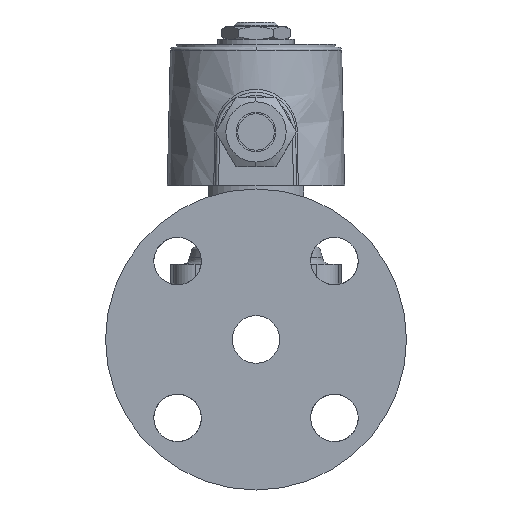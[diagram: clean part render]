
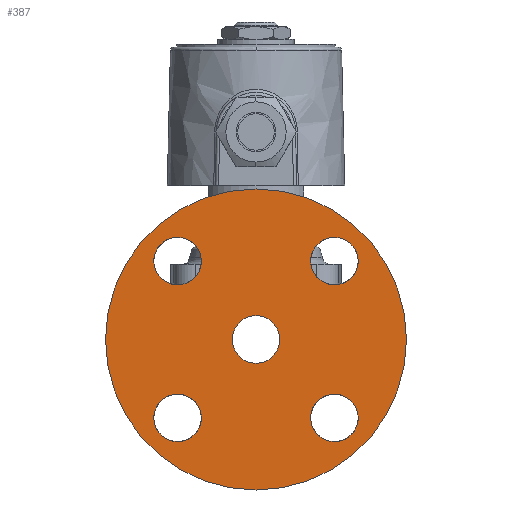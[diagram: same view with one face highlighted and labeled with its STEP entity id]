
A CAD part, left-side view. The second image highlights one B-rep face of the part: STEP entity #387.
In plain terms, the highlighted planar face has unit normal (-1, 0, 0).
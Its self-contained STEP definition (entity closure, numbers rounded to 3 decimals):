
#387=ADVANCED_FACE('',(#2562,#2563,#2564,#2565,#2566,#2567),#2561,.T.);
#2561=PLANE('',#6380);
#2562=FACE_OUTER_BOUND('',#6381,.T.);
#2563=FACE_BOUND('',#6382,.T.);
#2564=FACE_BOUND('',#6383,.T.);
#2565=FACE_BOUND('',#6384,.T.);
#2566=FACE_BOUND('',#6385,.T.);
#2567=FACE_BOUND('',#6386,.T.);
#6377=CARTESIAN_POINT('',(-60.,-92.272,-105.));
#6378=DIRECTION('',(-1.,0.,0.));
#6379=DIRECTION('',(0.,0.,1.));
#6380=AXIS2_PLACEMENT_3D('',#6377,#6378,#6379);
#6381=EDGE_LOOP('',(#8358,#8359));
#6382=EDGE_LOOP('',(#8360,#8361));
#6383=EDGE_LOOP('',(#8362,#8363));
#6384=EDGE_LOOP('',(#8364,#8365));
#6385=EDGE_LOOP('',(#8366,#8367));
#6386=EDGE_LOOP('',(#8368,#8369));
#8358=ORIENTED_EDGE('',*,*,#9664,.T.);
#8359=ORIENTED_EDGE('',*,*,#9665,.T.);
#8360=ORIENTED_EDGE('',*,*,#9666,.F.);
#8361=ORIENTED_EDGE('',*,*,#9667,.F.);
#8362=ORIENTED_EDGE('',*,*,#9668,.F.);
#8363=ORIENTED_EDGE('',*,*,#9669,.F.);
#8364=ORIENTED_EDGE('',*,*,#9670,.F.);
#8365=ORIENTED_EDGE('',*,*,#9671,.F.);
#8366=ORIENTED_EDGE('',*,*,#9672,.F.);
#8367=ORIENTED_EDGE('',*,*,#9673,.F.);
#8368=ORIENTED_EDGE('',*,*,#9674,.F.);
#8369=ORIENTED_EDGE('',*,*,#9675,.F.);
#9664=EDGE_CURVE('',#13615,#13616,#13617,.T.);
#9665=EDGE_CURVE('',#13616,#13615,#13623,.T.);
#9666=EDGE_CURVE('',#13629,#13630,#13631,.T.);
#9667=EDGE_CURVE('',#13630,#13629,#13637,.T.);
#9668=EDGE_CURVE('',#13643,#13644,#13645,.T.);
#9669=EDGE_CURVE('',#13644,#13643,#13651,.T.);
#9670=EDGE_CURVE('',#13657,#13658,#13659,.T.);
#9671=EDGE_CURVE('',#13658,#13657,#13665,.T.);
#9672=EDGE_CURVE('',#13671,#13672,#13673,.T.);
#9673=EDGE_CURVE('',#13672,#13671,#13679,.T.);
#9674=EDGE_CURVE('',#13685,#13686,#13687,.T.);
#9675=EDGE_CURVE('',#13686,#13685,#13693,.T.);
#13615=VERTEX_POINT('',#18491);
#13616=VERTEX_POINT('',#18492);
#13617=CIRCLE('',#18496,47.5);
#13623=CIRCLE('',#18500,47.5);
#13629=VERTEX_POINT('',#18501);
#13630=VERTEX_POINT('',#18502);
#13631=(BOUNDED_CURVE() B_SPLINE_CURVE(2,(#18503,#18504,#18505,#18506,#18507),.UNSPECIFIED.,.F.,.F.) B_SPLINE_CURVE_WITH_KNOTS((3,2,3),(0.,0.5,1.),.UNSPECIFIED.) CURVE() GEOMETRIC_REPRESENTATION_ITEM() RATIONAL_B_SPLINE_CURVE((1.,0.707,1.,0.707,1.)) REPRESENTATION_ITEM('') );
#13637=(BOUNDED_CURVE() B_SPLINE_CURVE(2,(#18508,#18509,#18510,#18511,#18512),.UNSPECIFIED.,.F.,.F.) B_SPLINE_CURVE_WITH_KNOTS((3,2,3),(0.,0.5,1.),.UNSPECIFIED.) CURVE() GEOMETRIC_REPRESENTATION_ITEM() RATIONAL_B_SPLINE_CURVE((1.,0.707,1.,0.707,1.)) REPRESENTATION_ITEM('') );
#13643=VERTEX_POINT('',#18513);
#13644=VERTEX_POINT('',#18514);
#13645=(BOUNDED_CURVE() B_SPLINE_CURVE(2,(#18515,#18516,#18517,#18518,#18519),.UNSPECIFIED.,.F.,.F.) B_SPLINE_CURVE_WITH_KNOTS((3,2,3),(0.,0.5,1.),.UNSPECIFIED.) CURVE() GEOMETRIC_REPRESENTATION_ITEM() RATIONAL_B_SPLINE_CURVE((1.,0.707,1.,0.707,1.)) REPRESENTATION_ITEM('') );
#13651=(BOUNDED_CURVE() B_SPLINE_CURVE(2,(#18520,#18521,#18522,#18523,#18524),.UNSPECIFIED.,.F.,.F.) B_SPLINE_CURVE_WITH_KNOTS((3,2,3),(0.,0.5,1.),.UNSPECIFIED.) CURVE() GEOMETRIC_REPRESENTATION_ITEM() RATIONAL_B_SPLINE_CURVE((1.,0.707,1.,0.707,1.)) REPRESENTATION_ITEM('') );
#13657=VERTEX_POINT('',#18525);
#13658=VERTEX_POINT('',#18526);
#13659=(BOUNDED_CURVE() B_SPLINE_CURVE(2,(#18527,#18528,#18529,#18530,#18531),.UNSPECIFIED.,.F.,.F.) B_SPLINE_CURVE_WITH_KNOTS((3,2,3),(0.,0.5,1.),.UNSPECIFIED.) CURVE() GEOMETRIC_REPRESENTATION_ITEM() RATIONAL_B_SPLINE_CURVE((1.,0.707,1.,0.707,1.)) REPRESENTATION_ITEM('') );
#13665=(BOUNDED_CURVE() B_SPLINE_CURVE(2,(#18532,#18533,#18534,#18535,#18536),.UNSPECIFIED.,.F.,.F.) B_SPLINE_CURVE_WITH_KNOTS((3,2,3),(0.,0.5,1.),.UNSPECIFIED.) CURVE() GEOMETRIC_REPRESENTATION_ITEM() RATIONAL_B_SPLINE_CURVE((1.,0.707,1.,0.707,1.)) REPRESENTATION_ITEM('') );
#13671=VERTEX_POINT('',#18537);
#13672=VERTEX_POINT('',#18538);
#13673=CIRCLE('',#18542,7.5);
#13679=CIRCLE('',#18546,7.5);
#13685=VERTEX_POINT('',#18547);
#13686=VERTEX_POINT('',#18548);
#13687=(BOUNDED_CURVE() B_SPLINE_CURVE(2,(#18549,#18550,#18551,#18552,#18553),.UNSPECIFIED.,.F.,.F.) B_SPLINE_CURVE_WITH_KNOTS((3,2,3),(0.,0.5,1.),.UNSPECIFIED.) CURVE() GEOMETRIC_REPRESENTATION_ITEM() RATIONAL_B_SPLINE_CURVE((1.,0.707,1.,0.707,1.)) REPRESENTATION_ITEM('') );
#13693=(BOUNDED_CURVE() B_SPLINE_CURVE(2,(#18554,#18555,#18556,#18557,#18558),.UNSPECIFIED.,.F.,.F.) B_SPLINE_CURVE_WITH_KNOTS((3,2,3),(0.,0.5,1.),.UNSPECIFIED.) CURVE() GEOMETRIC_REPRESENTATION_ITEM() RATIONAL_B_SPLINE_CURVE((1.,0.707,1.,0.707,1.)) REPRESENTATION_ITEM('') );
#18491=CARTESIAN_POINT('',(-60.,0.,47.5));
#18492=CARTESIAN_POINT('',(-60.,0.,-47.5));
#18493=CARTESIAN_POINT('',(-60.,0.,0.));
#18494=DIRECTION('',(-1.,0.,0.));
#18495=DIRECTION('',(0.,0.,1.));
#18496=AXIS2_PLACEMENT_3D('',#18493,#18494,#18495);
#18497=CARTESIAN_POINT('',(-60.,0.,0.));
#18498=DIRECTION('',(-1.,0.,0.));
#18499=DIRECTION('',(0.,0.,1.));
#18500=AXIS2_PLACEMENT_3D('',#18497,#18498,#18499);
#18501=CARTESIAN_POINT('',(-60.,-24.742,32.249));
#18502=CARTESIAN_POINT('',(-60.,-24.755,17.249));
#18503=CARTESIAN_POINT('',(-60.,-24.742,32.249));
#18504=CARTESIAN_POINT('',(-60.,-17.245,32.242));
#18505=CARTESIAN_POINT('',(-60.,-17.249,24.745));
#18506=CARTESIAN_POINT('',(-60.,-17.252,17.249));
#18507=CARTESIAN_POINT('',(-60.,-24.755,17.249));
#18508=CARTESIAN_POINT('',(-60.,-24.755,17.249));
#18509=CARTESIAN_POINT('',(-60.,-32.252,17.249));
#18510=CARTESIAN_POINT('',(-60.,-32.249,24.752));
#18511=CARTESIAN_POINT('',(-60.,-32.245,32.255));
#18512=CARTESIAN_POINT('',(-60.,-24.742,32.249));
#18513=CARTESIAN_POINT('',(-60.,-24.742,-17.249));
#18514=CARTESIAN_POINT('',(-60.,-24.756,-32.249));
#18515=CARTESIAN_POINT('',(-60.,-24.742,-17.249));
#18516=CARTESIAN_POINT('',(-60.,-17.245,-17.256));
#18517=CARTESIAN_POINT('',(-60.,-17.249,-24.752));
#18518=CARTESIAN_POINT('',(-60.,-17.252,-32.249));
#18519=CARTESIAN_POINT('',(-60.,-24.756,-32.249));
#18520=CARTESIAN_POINT('',(-60.,-24.756,-32.249));
#18521=CARTESIAN_POINT('',(-60.,-32.252,-32.249));
#18522=CARTESIAN_POINT('',(-60.,-32.249,-24.745));
#18523=CARTESIAN_POINT('',(-60.,-32.245,-17.242));
#18524=CARTESIAN_POINT('',(-60.,-24.742,-17.249));
#18525=CARTESIAN_POINT('',(-60.,24.757,-17.249));
#18526=CARTESIAN_POINT('',(-60.,24.74,-32.249));
#18527=CARTESIAN_POINT('',(-60.,24.757,-17.249));
#18528=CARTESIAN_POINT('',(-60.,32.253,-17.257));
#18529=CARTESIAN_POINT('',(-60.,32.249,-24.753));
#18530=CARTESIAN_POINT('',(-60.,32.245,-32.249));
#18531=CARTESIAN_POINT('',(-60.,24.74,-32.249));
#18532=CARTESIAN_POINT('',(-60.,24.74,-32.249));
#18533=CARTESIAN_POINT('',(-60.,17.245,-32.249));
#18534=CARTESIAN_POINT('',(-60.,17.249,-24.745));
#18535=CARTESIAN_POINT('',(-60.,17.253,-17.24));
#18536=CARTESIAN_POINT('',(-60.,24.757,-17.249));
#18537=CARTESIAN_POINT('',(-60.,0.,-7.5));
#18538=CARTESIAN_POINT('',(-60.,0.,7.5));
#18539=CARTESIAN_POINT('',(-60.,0.,0.));
#18540=DIRECTION('',(-1.,0.,0.));
#18541=DIRECTION('',(0.,0.,1.));
#18542=AXIS2_PLACEMENT_3D('',#18539,#18540,#18541);
#18543=CARTESIAN_POINT('',(-60.,0.,0.));
#18544=DIRECTION('',(-1.,0.,0.));
#18545=DIRECTION('',(0.,0.,1.));
#18546=AXIS2_PLACEMENT_3D('',#18543,#18544,#18545);
#18547=CARTESIAN_POINT('',(-60.,24.756,32.249));
#18548=CARTESIAN_POINT('',(-60.,24.742,17.249));
#18549=CARTESIAN_POINT('',(-60.,24.756,32.249));
#18550=CARTESIAN_POINT('',(-60.,32.252,32.242));
#18551=CARTESIAN_POINT('',(-60.,32.249,24.745));
#18552=CARTESIAN_POINT('',(-60.,32.245,17.249));
#18553=CARTESIAN_POINT('',(-60.,24.742,17.249));
#18554=CARTESIAN_POINT('',(-60.,24.742,17.249));
#18555=CARTESIAN_POINT('',(-60.,17.245,17.249));
#18556=CARTESIAN_POINT('',(-60.,17.249,24.752));
#18557=CARTESIAN_POINT('',(-60.,17.252,32.256));
#18558=CARTESIAN_POINT('',(-60.,24.756,32.249));
